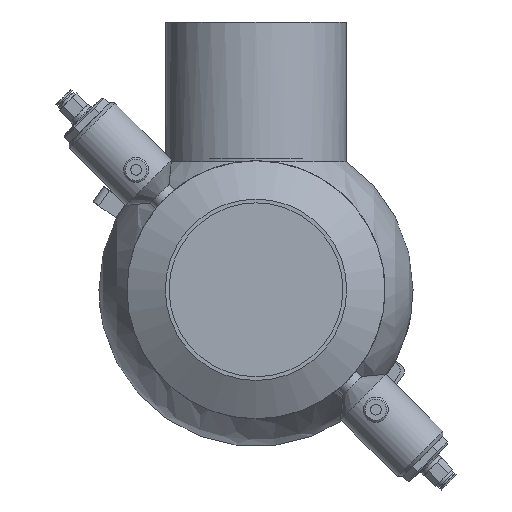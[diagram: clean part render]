
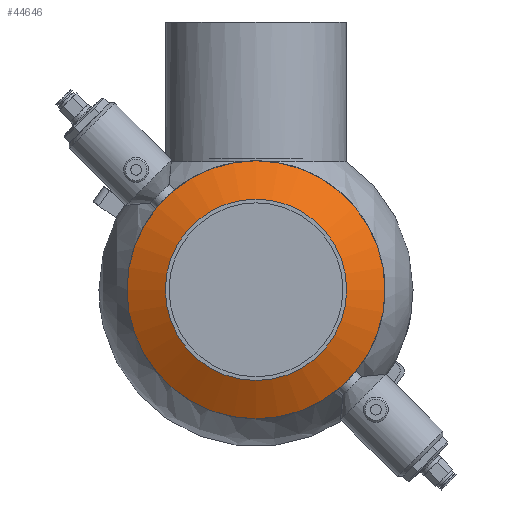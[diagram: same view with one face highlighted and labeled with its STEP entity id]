
A CAD part, front view. The second image highlights one B-rep face of the part: STEP entity #44646.
In plain terms, the highlighted conical face has half-angle 60 degrees and reference radius 72.25 mm.
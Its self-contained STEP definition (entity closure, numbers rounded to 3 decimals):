
#2568 = CARTESIAN_POINT ( 'NONE',  ( 0., -91.384, 50.8 ) ) ;
#3982 = DIRECTION ( 'NONE',  ( 0., 1., 0. ) ) ;
#9690 = ORIENTED_EDGE ( 'NONE', *, *, #40237, .F. ) ;
#13983 = DIRECTION ( 'NONE',  ( 0., 1., 0. ) ) ;
#15206 = CARTESIAN_POINT ( 'NONE',  ( 0., -79., 0. ) ) ;
#17846 = EDGE_LOOP ( 'NONE', ( #40526 ) ) ;
#18251 = CIRCLE ( 'NONE', #26408, 72.25 ) ;
#22254 = VERTEX_POINT ( 'NONE', #42141 ) ;
#24174 = FACE_OUTER_BOUND ( 'NONE', #50047, .T. ) ;
#26408 = AXIS2_PLACEMENT_3D ( 'NONE', #33557, #13983, #62423 ) ;
#29917 = CIRCLE ( 'NONE', #31992, 50.8 ) ;
#31992 = AXIS2_PLACEMENT_3D ( 'NONE', #43452, #3982, #63020 ) ;
#33557 = CARTESIAN_POINT ( 'NONE',  ( 0., -79., 0. ) ) ;
#40237 = EDGE_CURVE ( 'NONE', #22254, #22254, #18251, .T. ) ;
#40526 = ORIENTED_EDGE ( 'NONE', *, *, #53311, .T. ) ;
#42141 = CARTESIAN_POINT ( 'NONE',  ( 0., -79., 72.25 ) ) ;
#43452 = CARTESIAN_POINT ( 'NONE',  ( 0., -91.384, 0. ) ) ;
#44646 = ADVANCED_FACE ( 'NONE', ( #58506, #24174 ), #61879, .T. ) ;
#46548 = VERTEX_POINT ( 'NONE', #2568 ) ;
#50047 = EDGE_LOOP ( 'NONE', ( #9690 ) ) ;
#53311 = EDGE_CURVE ( 'NONE', #46548, #46548, #29917, .T. ) ;
#53695 = AXIS2_PLACEMENT_3D ( 'NONE', #15206, #57885, #54330 ) ;
#54330 = DIRECTION ( 'NONE',  ( 0., 0., 1. ) ) ;
#57885 = DIRECTION ( 'NONE',  ( 0., 1., 0. ) ) ;
#58506 = FACE_BOUND ( 'NONE', #17846, .T. ) ;
#61879 = CONICAL_SURFACE ( 'NONE', #53695, 72.25, 1.047 ) ;
#62423 = DIRECTION ( 'NONE',  ( 0., 0., 1. ) ) ;
#63020 = DIRECTION ( 'NONE',  ( 0., 0., 1. ) ) ;
